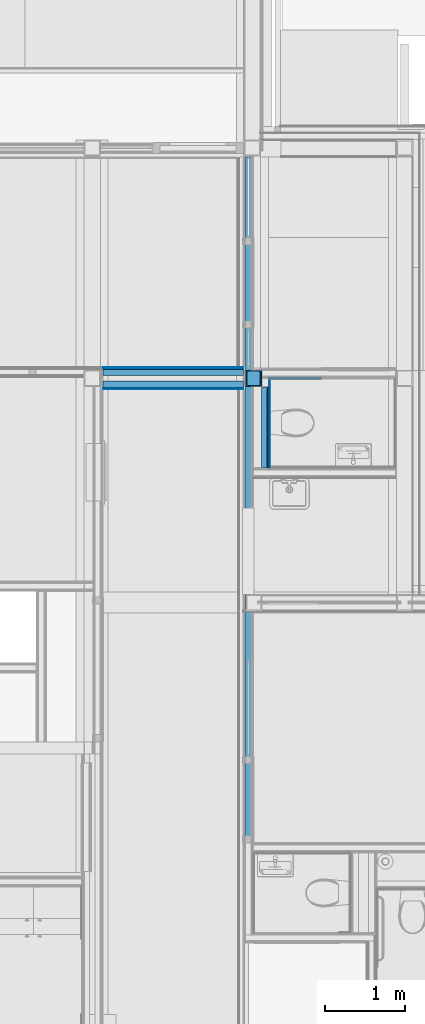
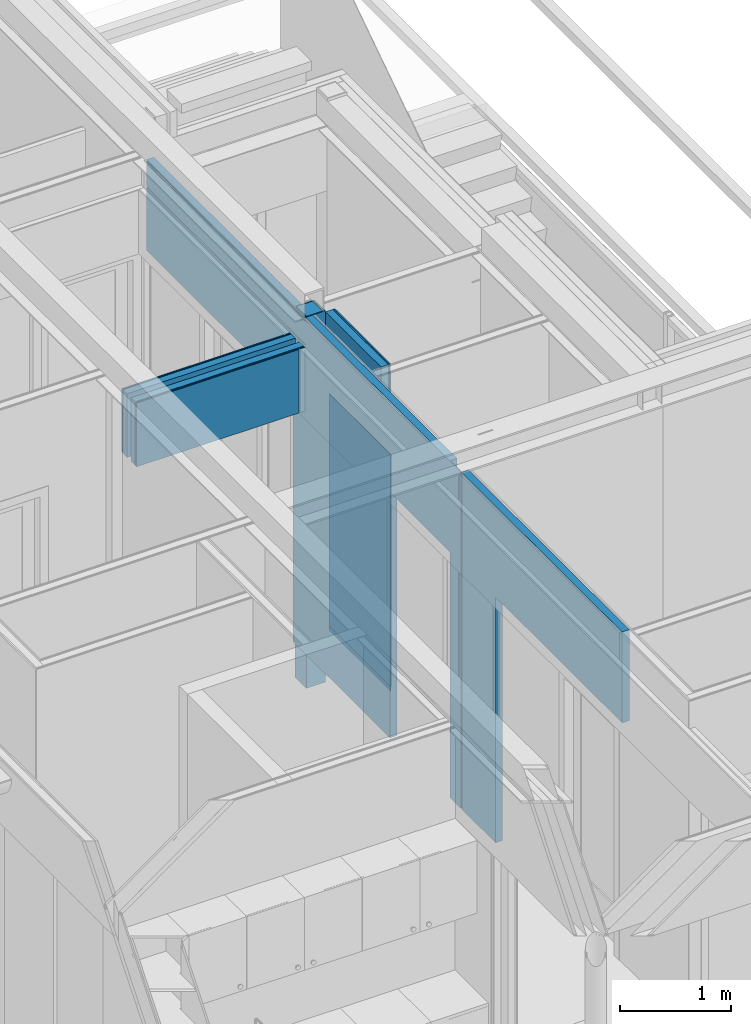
# One storey, part 89 of 165: 15 building element parts, 6 openings, 6 elements without a shape of their own.
"""IFC2X3 building model written with IfcOpenShell, lengths in millimetres."""

from ifc_helpers import new_model, entity, si_unit, converted_unit, derived_unit, money_unit, direction, frame, origin_with_axes, place, context, subcontext, project, spatial, faceted_brep, material, type_object, element, aggregate, save


model = new_model("IFC2X3")

# Units and contexts
model_context = context("Model", 3, precision=0.01, world=origin_with_axes(), true_north=direction((0.0, 1.0)))
body_context = subcontext(model_context, "Body", "Model", "MODEL_VIEW")
ifc_project = project(units=[si_unit("LENGTHUNIT", "METRE", prefix="MILLI"), si_unit("AREAUNIT", "SQUARE_METRE"), si_unit("VOLUMEUNIT", "CUBIC_METRE"), converted_unit("PLANEANGLEUNIT", "DEGREE", entity("IfcPlaneAngleMeasure", 0.0174532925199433), si_unit("PLANEANGLEUNIT", "RADIAN"), dimensions=[0, 0, 0, 0, 0, 0, 0]), money_unit("EUR"), converted_unit("TIMEUNIT", "Year", entity("IfcTimeMeasure", 31556926.0), si_unit("TIMEUNIT", "SECOND"), dimensions=[0, 0, 1, 0, 0, 0, 0]), si_unit("MASSUNIT", "GRAM", prefix="KILO"), si_unit("THERMODYNAMICTEMPERATUREUNIT", "DEGREE_CELSIUS"), si_unit("LUMINOUSINTENSITYUNIT", "LUMEN"), si_unit("ENERGYUNIT", "JOULE", prefix="MEGA"), derived_unit("THERMALCONDUCTANCEUNIT", [(si_unit("POWERUNIT", "WATT"), 1), (si_unit("LENGTHUNIT", "METRE"), -1), (si_unit("THERMODYNAMICTEMPERATUREUNIT", "KELVIN"), -1)]), derived_unit("SPECIFICHEATCAPACITYUNIT", [(si_unit("ENERGYUNIT", "JOULE"), 1), (si_unit("MASSUNIT", "GRAM", prefix="KILO"), -1), (si_unit("THERMODYNAMICTEMPERATUREUNIT", "KELVIN"), -1)]), derived_unit("MASSDENSITYUNIT", [(si_unit("MASSUNIT", "GRAM", prefix="KILO"), 1), (si_unit("VOLUMEUNIT", "CUBIC_METRE"), -1)])], contexts=[model_context])

# Site, building, storey
site_placement = place(None, origin_with_axes())
site = spatial("IfcSite", under=ifc_project, at=site_placement, Name="Site", CompositionType="ELEMENT")
building_placement = place(site_placement, origin_with_axes())
building = spatial("IfcBuilding", under=site, at=building_placement, Name="Naam gebouw", CompositionType="ELEMENT")
storey_placement = place(building_placement, origin_with_axes())
storey = spatial("IfcBuildingStorey", under=building, at=storey_placement, Name="Begane grond", CompositionType="ELEMENT", Elevation=0.0)

# Proxy, openings, building element part
building_element_proxy_type_1 = type_object("IfcBuildingElementProxyType", Name="22 Metal stud 125 oregon pine 125", PredefinedType="NOTDEFINED")
proxy_1_placement = place(storey_placement, frame((26386.00000000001, 22210.97624274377, -100.0), z_axis=(0.0, 0.0, 1.0), x_axis=(0.0, -1.0, 0.0)))
proxy_1 = element("IfcBuildingElementProxy", 1, at=proxy_1_placement, inside=storey, type_object=building_element_proxy_type_1, Name="_Wand-x")
opening_1_placement = place(proxy_1_placement, frame((6880.978461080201, 0.0, 100.0), z_axis=(0.0, 0.0, 1.0), x_axis=(1.0, 0.0, 0.0)))
element("IfcOpeningElement", 2, at=opening_1_placement, cuts=proxy_1, Name="_B.01", context=body_context, shape_type="Brep", body=[
    faceted_brep([(599.9999999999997, 50.00000000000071, 2600.0), (-599.9999999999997, 50.00000000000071, 2600.0), (-599.9999999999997, -1.000000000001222, 2600.0), (599.9999999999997, -1.000000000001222, 2600.0), (599.9999999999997, 126.0000000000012, 2600.0), (-599.9999999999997, 126.0000000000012, 2600.0), (-599.9999999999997, 50.00000000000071, -100.0000000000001), (-599.9999999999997, -1.000000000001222, -100.0000000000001), (599.9999999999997, -1.000000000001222, -100.0000000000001), (599.9999999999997, 50.00000000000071, -100.0000000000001), (599.9999999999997, 126.0000000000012, -100.0000000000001), (-599.9999999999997, 126.0000000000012, -100.0000000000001)], [[[0, 1, 2, 3]], [[1, 0, 4, 5]], [[1, 6, 7, 2]], [[2, 7, 8, 3]], [[9, 0, 3, 8]], [[0, 9, 10, 4]], [[4, 10, 11, 5]], [[6, 1, 5, 11]], [[6, 9, 8, 7]], [[9, 6, 11, 10]]]),
])
opening_2_placement = place(proxy_1_placement, frame((503.0000000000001, 0.0, 100.0), z_axis=(0.0, 0.0, 1.0), x_axis=(1.0, 0.0, 0.0)))
element("IfcOpeningElement", 3, at=opening_2_placement, cuts=proxy_1, Name="_B.17", context=body_context, shape_type="Brep", body=[
    faceted_brep([(-503.0000000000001, 74.99999999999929, -100.0000000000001), (-503.0000000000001, 74.99999999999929, 2600.0), (-503.0000000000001, 126.0000000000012, 2600.0), (-503.0000000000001, 126.0000000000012, -100.0000000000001), (-503.0000000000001, -1.000000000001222, -100.0000000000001), (-503.0000000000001, -1.000000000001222, 2600.0), (503.0000000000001, 74.99999999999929, 2600.0), (503.0000000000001, 126.0000000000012, 2600.0), (503.0000000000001, 126.0000000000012, -100.0000000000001), (503.0000000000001, 74.99999999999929, -100.0000000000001), (503.0000000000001, -1.000000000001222, -100.0000000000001), (503.0000000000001, -1.000000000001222, 2600.0)], [[[0, 1, 2, 3]], [[1, 0, 4, 5]], [[1, 6, 7, 2]], [[7, 8, 3, 2]], [[9, 0, 3, 8]], [[0, 9, 10, 4]], [[5, 4, 10, 11]], [[6, 1, 5, 11]], [[6, 9, 8, 7]], [[9, 6, 11, 10]]]),
])
opening_3_placement = place(proxy_1_placement, frame((2385.98792491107, 0.0, 100.0), z_axis=(0.0, 0.0, 1.0), x_axis=(1.0, 0.0, 0.0)))
element("IfcOpeningElement", 4, at=opening_3_placement, cuts=proxy_1, Name="_B.13", context=body_context, shape_type="Brep", body=[
    faceted_brep([(249.9879249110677, 50.00000000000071, 2600.0), (-249.9879249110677, 50.00000000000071, 2600.0), (-249.9879249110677, -1.000000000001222, 2600.0), (249.9879249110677, -1.000000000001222, 2600.0), (249.9879249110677, 126.0000000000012, 2600.0), (-249.9879249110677, 126.0000000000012, 2600.0), (-249.9879249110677, 50.00000000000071, -100.0000000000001), (-249.9879249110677, -1.000000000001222, -100.0000000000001), (249.9879249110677, -1.000000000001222, -100.0000000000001), (249.9879249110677, 50.00000000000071, -100.0000000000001), (249.9879249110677, 126.0000000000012, -100.0000000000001), (-249.9879249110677, 126.0000000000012, -100.0000000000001)], [[[0, 1, 2, 3]], [[1, 0, 4, 5]], [[1, 6, 7, 2]], [[2, 7, 8, 3]], [[9, 0, 3, 8]], [[0, 9, 10, 4]], [[4, 10, 11, 5]], [[6, 1, 5, 11]], [[6, 9, 8, 7]], [[9, 6, 11, 10]]]),
])
opening_4_placement = place(proxy_1_placement, frame((4920.978461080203, 0.0, 100.0), z_axis=(0.0, 0.0, 1.0), x_axis=(1.0, 0.0, 0.0)))
element("IfcOpeningElement", 5, at=opening_4_placement, cuts=proxy_1, Name="_02.04", context=body_context, shape_type="Brep", body=[
    faceted_brep([(539.9999999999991, 126.0000000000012, 2600.0), (539.9999999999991, 126.0000000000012, -100.0000000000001), (-539.9999999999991, 126.0000000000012, -100.0000000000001), (-539.9999999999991, 126.0000000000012, 2600.0), (539.9999999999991, -1.000000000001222, 2600.0), (539.9999999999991, -1.000000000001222, -100.0000000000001), (-539.9999999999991, -1.000000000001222, -100.0000000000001), (-539.9999999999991, -1.000000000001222, 2600.0)], [[[0, 1, 2, 3]], [[4, 5, 1, 0]], [[5, 6, 2, 1]], [[6, 7, 3, 2]], [[7, 4, 0, 3]], [[6, 5, 4, 7]]]),
])
opening_5_placement = place(proxy_1_placement, frame((8020.978461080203, 0.0, 100.0), z_axis=(0.0, 0.0, 1.0), x_axis=(1.0, 0.0, 0.0)))
element("IfcOpeningElement", 6, at=opening_5_placement, cuts=proxy_1, Name="_01.02", context=body_context, shape_type="Brep", body=[
    faceted_brep([(-540.0000000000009, -1.000000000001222, 2600.0), (-540.0000000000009, -1.000000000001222, -100.0000000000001), (540.0000000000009, -1.000000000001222, -100.0000000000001), (540.0000000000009, -1.000000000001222, 2600.0), (-540.0000000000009, 126.0000000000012, 2600.0), (-540.0000000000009, 126.0000000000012, -100.0000000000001), (540.0000000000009, 126.0000000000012, -100.0000000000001), (540.0000000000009, 126.0000000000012, 2600.0)], [[[0, 1, 2, 3]], [[4, 5, 1, 0]], [[5, 6, 2, 1]], [[6, 7, 3, 2]], [[7, 4, 0, 3]], [[6, 5, 4, 7]]]),
])
opening_6_placement = place(proxy_1_placement, frame((1571.000000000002, 0.0, 100.0), z_axis=(0.0, 0.0, 1.0), x_axis=(1.0, 0.0, 0.0)))
element("IfcOpeningElement", 7, at=opening_6_placement, cuts=proxy_1, Name="_01.01", context=body_context, shape_type="Brep", body=[
    faceted_brep([(-565.0000000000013, -1.000000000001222, 2600.0), (-565.0000000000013, -1.000000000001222, -100.0000000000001), (565.0000000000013, -1.000000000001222, -100.0000000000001), (565.0000000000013, -1.000000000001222, 2600.0), (-565.0000000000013, 126.0000000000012, 2600.0), (-565.0000000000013, 126.0000000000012, -100.0000000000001), (565.0000000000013, 126.0000000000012, -100.0000000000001), (565.0000000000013, 126.0000000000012, 2600.0)], [[[0, 1, 2, 3]], [[4, 5, 1, 0]], [[5, 6, 2, 1]], [[6, 7, 3, 2]], [[7, 4, 0, 3]], [[6, 5, 4, 7]]]),
])
ifc_material_1 = material(Name="ALG - LICHTE SCHEIDINGSWAND")
building_element_part_1_placement = place(proxy_1_placement, origin_with_axes())
building_element_part_1 = element("IfcBuildingElementPart", 8, at=building_element_part_1_placement, material=ifc_material_1, Name="ALG - LICHTE SCHEIDINGSWAND", context=body_context, shape_type="Brep", body=[
    faceted_brep([(2136.000000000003, 100.0000000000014, 2700.0), (1006.0, 99.99999999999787, 2700.0), (0.0, 100.0000000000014, 2700.0), (0.0, 100.0000000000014, 3393.0), (2660.975849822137, 99.99999999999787, 3393.0), (2660.975849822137, 100.0000000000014, 0.0), (2635.975849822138, 100.0000000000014, 0.0), (2635.975849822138, 100.0000000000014, 2700.0), (2136.000000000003, 24.99999999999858, 2700.0), (1006.0, 24.99999999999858, 2700.0), (0.0, 24.99999999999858, 2700.0), (0.0, 74.99999999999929, 2700.0), (1006.0, 74.99999999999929, 2700.0), (2136.000000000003, 50.00000000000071, 2700.0), (2635.975849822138, 50.00000000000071, 2700.0), (2635.975849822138, 24.99999999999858, 2700.0), (0.0, 24.99999999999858, 3393.0), (2860.975849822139, 33.99999999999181, 3393.0), (2660.975849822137, 33.99999999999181, 3393.0), (2860.975849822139, 24.99999999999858, 3393.0), (2660.975849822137, 33.99999999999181, 0.0), (2860.975849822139, 33.99999999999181, 0.0), (2860.975849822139, 99.99999999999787, 0.0), (4380.978461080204, 99.99999999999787, 0.0), (4380.978461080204, 24.99999999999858, 0.0), (2635.975849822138, 24.99999999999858, 0.0), (2635.975849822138, 50.00000000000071, 0.0), (4380.978461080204, 24.99999999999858, 2700.0), (5460.978461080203, 24.99999999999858, 2700.0), (5460.978461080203, 24.99999999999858, 0.0), (5662.978461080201, 24.99999999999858, 0.0), (5662.978461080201, 24.99999999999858, 3700.0), (0.0, 24.99999999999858, 3700.0), (0.0, 24.99999999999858, 3695.0), (2860.976431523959, 24.99999999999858, 3695.0), (2860.976431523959, 24.99999999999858, 3683.0), (0.0, 24.99999999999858, 3683.0), (0.0, 24.99999999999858, 3670.0), (2860.975849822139, 24.99999999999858, 3670.0), (2860.975849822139, 24.99999999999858, 3650.0), (0.0, 24.99999999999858, 3650.0), (0.0, 24.99999999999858, 3405.0), (2860.975849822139, 24.99999999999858, 3405.0), (2860.975849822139, 33.99999999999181, 3695.0), (2860.975849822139, 33.99999999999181, 3699.999999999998), (2860.975849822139, 99.99999999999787, 3699.999999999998), (2860.975849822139, 33.99999999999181, 3405.0), (2860.975849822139, 33.99999999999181, 3650.0), (2860.975849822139, 33.99999999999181, 3670.0), (2860.975849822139, 33.99999999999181, 3683.0), (5460.978461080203, 99.99999999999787, 3699.999999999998), (5460.978461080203, 99.99999999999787, 2700.0), (4380.978461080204, 99.99999999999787, 2700.0), (5460.978461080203, 33.99999999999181, 2700.0), (5460.978461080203, 33.99999999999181, 0.0), (5660.978461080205, 99.99999999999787, 0.0), (5662.978461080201, 99.99999999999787, 0.0), (5660.978461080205, 33.99999999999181, 0.0), (5662.978461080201, 99.99999999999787, 3700.0), (5660.978461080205, 99.99999999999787, 3699.999999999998), (5660.978461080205, 33.99999999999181, 3699.999999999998), (5460.978461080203, 33.99999999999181, 3699.999999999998), (2660.975849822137, 33.99999999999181, 3699.999999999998), (2660.975849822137, 100.0000000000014, 3699.999999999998), (0.0, 100.0000000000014, 3700.0), (0.0, 100.0000000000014, 3695.0), (2660.975849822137, 33.99999999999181, 3695.0), (2660.975849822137, 99.99999999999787, 3695.0), (2660.975849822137, 33.99999999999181, 3683.0), (2660.975849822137, 99.99999999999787, 3683.0), (0.0, 100.0000000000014, 3683.0), (0.0, 100.0000000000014, 3670.0), (2660.975849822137, 33.99999999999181, 3670.000000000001), (2660.975849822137, 99.99999999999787, 3670.0), (2660.975849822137, 33.99999999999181, 3650.0), (2660.975849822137, 99.99999999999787, 3650.0), (0.0, 100.0000000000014, 3650.0), (0.0, 100.0000000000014, 3405.0), (2660.975849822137, 33.99999999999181, 3405.0), (2660.975849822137, 99.99999999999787, 3405.0)], [[[0, 1, 2, 3, 4, 5, 6, 7]], [[8, 9, 10, 11, 12, 1, 0, 13, 14, 15]], [[1, 12, 11, 2]], [[3, 2, 11, 10, 16]], [[17, 18, 4, 3, 16, 19]], [[18, 20, 5, 4]], [[20, 21, 22, 23, 24, 25, 26, 6, 5]], [[26, 14, 7, 6]], [[13, 0, 7, 14]], [[9, 8, 15, 25, 24, 27, 28, 29, 30, 31, 32, 33, 34, 35, 36, 37, 38, 39, 40, 41, 42, 19, 16, 10]], [[25, 15, 14, 26]], [[21, 20, 18, 17]], [[34, 43, 44, 45, 22, 21, 17, 19, 42, 46, 47, 39, 38, 48, 49, 35]], [[45, 50, 51, 52, 23, 22]], [[52, 27, 24, 23]], [[53, 28, 27, 52, 51]], [[54, 29, 28, 53]], [[55, 56, 30, 29, 54, 57]], [[56, 58, 31, 30]], [[58, 59, 60, 61, 50, 45, 44, 62, 63, 64, 32, 31]], [[33, 32, 64, 65]], [[66, 43, 34, 33, 65, 67]], [[49, 68, 69, 70, 36, 35]], [[70, 71, 37, 36]], [[72, 48, 38, 37, 71, 73]], [[47, 74, 75, 76, 40, 39]], [[76, 77, 41, 40]], [[78, 46, 42, 41, 77, 79]], [[43, 66, 62, 44]], [[46, 78, 74, 47]], [[48, 72, 68, 49]], [[51, 50, 61, 53]], [[61, 60, 57, 54, 53]], [[58, 56, 55, 59]], [[55, 57, 60, 59]], [[62, 66, 67, 63]], [[65, 64, 63, 67]], [[68, 72, 73, 69]], [[71, 70, 69, 73]], [[74, 78, 79, 75]], [[77, 76, 75, 79]]]),
    faceted_brep([(8560.978461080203, 99.99999999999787, 2700.0), (7480.978461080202, 99.99999999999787, 2700.0), (6280.978461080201, 99.99999999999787, 2700.0), (6280.978461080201, 99.99999999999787, 0.0), (5674.978461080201, 99.99999999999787, 0.0), (5674.978461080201, 99.99999999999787, 3700.0), (8560.978461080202, 99.99999999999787, 3700.0), (7480.978461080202, 50.00000000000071, 2700.0), (8560.978461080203, 24.99999999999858, 2700.0), (7480.978461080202, 24.99999999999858, 2700.0), (6280.978461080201, 24.99999999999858, 2700.0), (6280.978461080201, 50.00000000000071, 2700.0), (6280.978461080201, 50.00000000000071, 0.0), (6280.978461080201, 24.99999999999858, 0.0), (5674.978461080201, 24.99999999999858, 0.0), (5674.978461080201, 24.99999999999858, 3700.0), (8560.978461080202, 24.99999999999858, 3700.0)], [[[0, 1, 2, 3, 4, 5, 6]], [[7, 1, 0, 8, 9, 10, 11]], [[1, 7, 11, 2]], [[2, 11, 12, 3]], [[13, 14, 4, 3, 12]], [[5, 4, 14, 15]], [[15, 16, 6, 5]], [[8, 0, 6, 16]], [[9, 8, 16, 15, 14, 13, 10]], [[11, 10, 13, 12]]]),
])
aggregate(proxy_1, [building_element_part_1])

# Proxy, building element parts
building_element_proxy_type_2 = type_object("IfcBuildingElementProxyType", Name="22 Metal stud 100 voorzetwand 100", PredefinedType="NOTDEFINED")
proxy_2_placement = place(storey_placement, frame((26711.00000000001, 19336.00039917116, -100.0), z_axis=(0.0, 0.0, 1.0), x_axis=(4.692530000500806e-08, -0.9999999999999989, 0.0)))
proxy_2 = element("IfcBuildingElementProxy", 9, at=proxy_2_placement, inside=storey, type_object=building_element_proxy_type_2, Name="_Wand-x")
ifc_material_2 = material(Name="Gipsplaat")
building_element_part_2_placement = place(proxy_2_placement, origin_with_axes())
building_element_part_2 = element("IfcBuildingElementPart", 10, at=building_element_part_2_placement, material=ifc_material_2, Name="Gipsplaat", context=body_context, shape_type="Brep", body=[
    faceted_brep([(999.9999909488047, -4.69253009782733e-05, 3700.0), (0.0, 0.0, 3700.0), (-5.865672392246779e-07, -12.49999999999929, 3700.0), (999.99999017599, -12.50004692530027, 3700.0), (999.9999909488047, -4.69253009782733e-05, 0.0), (0.0, 0.0, 0.0), (-5.865672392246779e-07, -12.49999999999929, 0.0), (999.99999017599, -12.50004692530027, 0.0)], [[[0, 1, 2, 3]], [[4, 5, 1, 0]], [[2, 1, 5, 6]], [[3, 2, 6, 7]], [[3, 7, 4, 0]], [[7, 6, 5, 4]]]),
])
building_element_part_3_placement = place(proxy_2_placement, origin_with_axes())
building_element_part_3 = element("IfcBuildingElementPart", 11, at=building_element_part_3_placement, material=ifc_material_2, Name="Gipsplaat", context=body_context, shape_type="Brep", body=[
    faceted_brep([(999.99999017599, -12.50004692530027, 3700.0), (-5.865672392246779e-07, -12.49999999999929, 3700.0), (-1.173134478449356e-06, -24.99999999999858, 3700.0), (999.9999894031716, -25.000046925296, 3700.0), (999.99999017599, -12.50004692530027, 0.0), (-5.865672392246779e-07, -12.49999999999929, 0.0), (-1.173134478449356e-06, -24.99999999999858, 0.0), (999.9999894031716, -25.000046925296, 0.0)], [[[0, 1, 2, 3]], [[4, 5, 1, 0]], [[2, 1, 5, 6]], [[3, 2, 6, 7]], [[3, 7, 4, 0]], [[7, 6, 5, 4]]]),
])
building_element_part_4_placement = place(proxy_2_placement, origin_with_axes())
building_element_part_4 = element("IfcBuildingElementPart", 12, at=building_element_part_4_placement, material=ifc_material_1, Name="ALG - LICHTE SCHEIDINGSWAND", context=body_context, shape_type="Brep", body=[
    faceted_brep([(999.9999894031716, -25.000046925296, 3700.0), (-1.173134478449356e-06, -24.99999999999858, 3700.0), (-4.692530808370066e-06, -100.0000000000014, 3700.0), (999.9999847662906, -100.0000469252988, 3700.0), (999.9999894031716, -25.000046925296, 0.0), (-1.173134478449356e-06, -24.99999999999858, 0.0), (-4.692530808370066e-06, -100.0000000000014, 0.0), (999.9999847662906, -100.0000469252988, 0.0)], [[[0, 1, 2, 3]], [[4, 5, 1, 0]], [[2, 1, 5, 6]], [[3, 2, 6, 7]], [[3, 7, 4, 0]], [[7, 6, 5, 4]]]),
])
aggregate(proxy_2, [building_element_part_2, building_element_part_3, building_element_part_4])

# Column, building element parts
column_type = type_object("IfcColumnType", Name="200X200X10 200 x 200", PredefinedType="COLUMN")
column_placement = place(storey_placement, frame((26520.0, 19450.00039292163, -480.0), z_axis=(0.0, 0.0, 1.0), x_axis=(1.0, 0.0, 0.0)))
column = element("IfcColumn", 13, at=column_placement, inside=storey, type_object=column_type, Name="28_Kolom-x", ObjectType="COLUMN")
ifc_material_3 = material(Name="Metaal - Staal C")
building_element_part_5_placement = place(column_placement, origin_with_axes())
building_element_part_5 = element("IfcBuildingElementPart", 14, at=building_element_part_5_placement, material=ifc_material_3, Name="Metaal - Staal C", context=body_context, shape_type="Brep", body=[
    faceted_brep([(-100.0000000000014, -100.0000000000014, 0.0), (100.0000000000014, -100.0000000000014, 0.0), (100.0000000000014, -100.0000000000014, 4079.999999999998), (-100.0000000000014, -100.0000000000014, 4079.999999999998), (-100.0000000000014, 100.0000000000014, 0.0), (100.0000000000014, 100.0000000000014, 0.0), (-89.99999999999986, -89.99999999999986, 0.0), (89.99999999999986, -89.99999999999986, 0.0), (89.99999999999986, 89.99999999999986, 0.0), (-89.99999999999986, 89.99999999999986, 0.0), (100.0000000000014, 100.0000000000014, 4079.999999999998), (-100.0000000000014, 100.0000000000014, 4079.999999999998), (-89.99999999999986, -89.99999999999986, 4079.999999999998), (-89.99999999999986, 89.99999999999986, 4079.999999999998), (89.99999999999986, 89.99999999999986, 4079.999999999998), (89.99999999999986, -89.99999999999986, 4079.999999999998)], [[[0, 1, 2, 3]], [[0, 4, 5, 1], [6, 7, 8, 9]], [[1, 5, 10, 2]], [[3, 2, 10, 11], [12, 13, 14, 15]], [[4, 0, 3, 11]], [[5, 4, 11, 10]], [[7, 6, 12, 15]], [[8, 7, 15, 14]], [[9, 8, 14, 13]], [[6, 9, 13, 12]]]),
])
ifc_material_4 = material(Name="Beton gewapend C")
building_element_part_6_placement = place(column_placement, origin_with_axes())
building_element_part_6 = element("IfcBuildingElementPart", 15, at=building_element_part_6_placement, material=ifc_material_4, Name="Beton gewapend C", context=body_context, shape_type="Brep", body=[
    faceted_brep([(74.99999999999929, 89.99999999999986, 3785.0), (-89.99999999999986, 89.99999999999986, 3785.0), (-89.99999999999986, 89.99999999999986, 4030.0), (74.99999999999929, 89.99999999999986, 4030.0), (74.99999999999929, -89.99999999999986, 3785.0), (-89.99999999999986, -89.99999999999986, 3785.0), (-89.99999999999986, -89.99999999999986, 4030.0), (74.99999999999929, -89.99999999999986, 4030.0)], [[[0, 1, 2, 3]], [[1, 0, 4, 5]], [[6, 2, 1, 5]], [[3, 2, 6, 7]], [[0, 3, 7, 4]], [[7, 6, 5, 4]]]),
    faceted_brep([(-89.99999999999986, 89.99999999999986, 3773.0), (89.99999999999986, 89.99999999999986, 3773.0), (89.99999999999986, 89.99999999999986, 0.0), (-89.99999999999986, 89.99999999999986, 0.0), (89.99999999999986, -89.99999999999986, 3773.0), (-89.99999999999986, -89.99999999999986, 3773.0), (89.99999999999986, -89.99999999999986, 0.0), (-89.99999999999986, -89.99999999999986, 0.0)], [[[0, 1, 2, 3]], [[4, 1, 0, 5]], [[1, 4, 6, 2]], [[2, 6, 7, 3]], [[5, 0, 3, 7]], [[4, 5, 7, 6]]]),
    faceted_brep([(75.00000000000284, -89.99999999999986, 4079.999999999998), (75.00000000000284, 89.99999999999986, 4079.999999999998), (-89.99999999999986, 89.99999999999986, 4079.999999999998), (-89.99999999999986, -89.99999999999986, 4079.999999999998), (75.0000000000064, 89.99999999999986, 4074.999999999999), (75.0000000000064, -89.99999999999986, 4074.999999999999), (-89.99999999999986, 89.99999999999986, 4074.999999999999), (-89.99999999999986, -89.99999999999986, 4074.999999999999)], [[[0, 1, 2, 3]], [[4, 1, 0, 5]], [[4, 6, 2, 1]], [[6, 7, 3, 2]], [[5, 0, 3, 7]], [[6, 4, 5, 7]]]),
    faceted_brep([(-89.99999999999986, 89.99999999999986, 4063.0), (89.99999999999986, 89.99999999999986, 4063.0), (89.99999999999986, 89.99999999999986, 3785.0), (80.99999999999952, 89.99999999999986, 3785.0), (80.99999999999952, 89.99999999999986, 4050.000000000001), (-89.99999999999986, 89.99999999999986, 4050.000000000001), (89.99999999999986, -89.99999999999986, 4063.0), (-89.99999999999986, -89.99999999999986, 4063.0), (89.99999999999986, -89.99999999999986, 3785.0), (80.99999999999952, -89.99999999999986, 3785.0), (80.99999999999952, -89.99999999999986, 4050.000000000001), (-89.99999999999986, -89.99999999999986, 4050.000000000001)], [[[0, 1, 2, 3, 4, 5]], [[6, 1, 0, 7]], [[1, 6, 8, 2]], [[3, 2, 8, 9]], [[4, 3, 9, 10]], [[5, 4, 10, 11]], [[7, 0, 5, 11]], [[6, 7, 11, 10, 9, 8]]]),
    faceted_brep([(89.99999999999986, -89.99999999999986, 4074.999999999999), (89.99999999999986, 89.99999999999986, 4074.999999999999), (89.99999999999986, 89.99999999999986, 4079.999999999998), (89.99999999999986, -89.99999999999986, 4079.999999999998), (81.00000000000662, 89.99999999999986, 4074.999999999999), (81.00000000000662, -89.99999999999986, 4074.999999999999), (81.00000000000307, 89.99999999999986, 4079.999999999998), (81.00000000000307, -89.99999999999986, 4079.999999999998)], [[[0, 1, 2, 3]], [[4, 1, 0, 5]], [[4, 6, 2, 1]], [[6, 7, 3, 2]], [[5, 0, 3, 7]], [[7, 6, 4, 5]]]),
])
aggregate(column, [building_element_part_5, building_element_part_6])

# Proxy, building element parts
building_element_proxy_type_3 = type_object("IfcBuildingElementProxyType", Name="22 Metal stud 270 270", PredefinedType="NOTDEFINED")
proxy_3_placement = place(storey_placement, frame((24634.99903999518, 19449.9998112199, 2600.0), z_axis=(0.0, 0.0, 1.0), x_axis=(1.0, 0.0, 0.0)))
proxy_3 = element("IfcBuildingElementProxy", 16, at=proxy_3_placement, inside=storey, type_object=building_element_proxy_type_3, Name="_Wand-x")
building_element_part_7_placement = place(proxy_3_placement, origin_with_axes())
building_element_part_7 = element("IfcBuildingElementPart", 17, at=building_element_part_7_placement, material=ifc_material_2, Name="Gipsplaat", context=body_context, shape_type="Brep", body=[
    faceted_brep([(1751.000960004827, 122.4999999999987, 0.0), (1751.000960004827, 109.9999999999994, 0.0), (0.0, 109.9999999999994, 0.0), (0.0, 122.4999999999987, 0.0), (1751.000960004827, 122.4999999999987, 699.9999999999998), (1751.000960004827, 109.9999999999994, 699.9999999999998), (0.0, 109.9999999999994, 699.9999999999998), (0.0, 122.4999999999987, 699.9999999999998)], [[[0, 1, 2, 3]], [[0, 4, 5, 1]], [[1, 5, 6, 2]], [[3, 2, 6, 7]], [[4, 0, 3, 7]], [[5, 4, 7, 6]]]),
])
building_element_part_8_placement = place(proxy_3_placement, origin_with_axes())
building_element_part_8 = element("IfcBuildingElementPart", 18, at=building_element_part_8_placement, material=ifc_material_1, Name="ALG - LICHTE SCHEIDINGSWAND", context=body_context, shape_type="Brep", body=[
    faceted_brep([(1751.000960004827, 109.9999999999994, 0.0), (1751.000960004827, 35.00000000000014, 0.0), (0.0, 35.00000000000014, 0.0), (0.0, 109.9999999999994, 0.0), (1751.000960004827, 109.9999999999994, 699.9999999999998), (1751.000960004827, 35.00000000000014, 699.9999999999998), (0.0, 35.00000000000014, 699.9999999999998), (0.0, 109.9999999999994, 699.9999999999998)], [[[0, 1, 2, 3]], [[0, 4, 5, 1]], [[1, 5, 6, 2]], [[3, 2, 6, 7]], [[4, 0, 3, 7]], [[5, 4, 7, 6]]]),
])
building_element_part_9_placement = place(proxy_3_placement, origin_with_axes())
building_element_part_9 = element("IfcBuildingElementPart", 19, at=building_element_part_9_placement, material=ifc_material_1, Name="ALG - LICHTE SCHEIDINGSWAND", context=body_context, shape_type="Brep", body=[
    faceted_brep([(1751.000960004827, -35.00000000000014, 0.0), (1751.000960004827, -109.9999999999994, 0.0), (0.0, -109.9999999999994, 0.0), (0.0, -35.00000000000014, 0.0), (1751.000960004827, -35.00000000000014, 699.9999999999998), (1751.000960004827, -109.9999999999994, 699.9999999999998), (0.0, -109.9999999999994, 699.9999999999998), (0.0, -35.00000000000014, 699.9999999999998)], [[[0, 1, 2, 3]], [[0, 4, 5, 1]], [[1, 5, 6, 2]], [[3, 2, 6, 7]], [[4, 0, 3, 7]], [[5, 4, 7, 6]]]),
])
building_element_part_10_placement = place(proxy_3_placement, origin_with_axes())
building_element_part_10 = element("IfcBuildingElementPart", 20, at=building_element_part_10_placement, material=ifc_material_2, Name="Gipsplaat", context=body_context, shape_type="Brep", body=[
    faceted_brep([(1751.000960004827, -109.9999999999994, 0.0), (1751.000960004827, -122.4999999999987, 0.0), (0.0, -122.4999999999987, 0.0), (0.0, -109.9999999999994, 0.0), (1751.000960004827, -109.9999999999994, 699.9999999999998), (1751.000960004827, -122.4999999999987, 699.9999999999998), (0.0, -122.4999999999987, 699.9999999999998), (0.0, -109.9999999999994, 699.9999999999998)], [[[0, 1, 2, 3]], [[0, 4, 5, 1]], [[1, 5, 6, 2]], [[3, 2, 6, 7]], [[4, 0, 3, 7]], [[5, 4, 7, 6]]]),
])
building_element_part_11_placement = place(proxy_3_placement, origin_with_axes())
building_element_part_11 = element("IfcBuildingElementPart", 21, at=building_element_part_11_placement, material=ifc_material_2, Name="Gipsplaat", context=body_context, shape_type="Brep", body=[
    faceted_brep([(1751.000960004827, -122.4999999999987, 0.0), (1751.000960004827, -135.0000000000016, 0.0), (1701.000960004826, -135.0000000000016, 0.0), (1701.000960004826, -122.4999999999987, 0.0), (1751.000960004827, -122.4999999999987, 699.9999999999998), (1751.000960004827, -135.0000000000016, 699.9999999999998), (1701.000960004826, -135.0000000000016, 699.9999999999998), (1701.000960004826, -122.4999999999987, 699.9999999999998)], [[[0, 1, 2, 3]], [[0, 4, 5, 1]], [[1, 5, 6, 2]], [[3, 2, 6, 7]], [[4, 0, 3, 7]], [[5, 4, 7, 6]]]),
    faceted_brep([(1688.500960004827, -135.0000000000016, 0.0), (0.0, -135.0000000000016, 0.0), (0.0, -122.4999999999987, 0.0), (1688.500960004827, -122.4999999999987, 0.0), (1688.500960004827, -135.0000000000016, 699.9999999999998), (0.0, -135.0000000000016, 699.9999999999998), (0.0, -122.4999999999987, 699.9999999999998), (1688.500960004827, -122.4999999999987, 699.9999999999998)], [[[0, 1, 2, 3]], [[4, 5, 1, 0]], [[2, 1, 5, 6]], [[3, 2, 6, 7]], [[3, 7, 4, 0]], [[7, 6, 5, 4]]]),
])
building_element_part_12_placement = place(proxy_3_placement, origin_with_axes())
building_element_part_12 = element("IfcBuildingElementPart", 22, at=building_element_part_12_placement, material=ifc_material_2, Name="Gipsplaat", context=body_context, shape_type="Brep", body=[
    faceted_brep([(1751.000960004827, 135.0000000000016, 0.0), (1751.000960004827, 122.4999999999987, 0.0), (1701.000960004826, 122.4999999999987, 0.0), (1701.000960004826, 135.0000000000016, 0.0), (1751.000960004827, 135.0000000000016, 699.9999999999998), (1751.000960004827, 122.4999999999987, 699.9999999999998), (1701.000960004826, 122.4999999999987, 699.9999999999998), (1701.000960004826, 135.0000000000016, 699.9999999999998)], [[[0, 1, 2, 3]], [[0, 4, 5, 1]], [[1, 5, 6, 2]], [[3, 2, 6, 7]], [[4, 0, 3, 7]], [[5, 4, 7, 6]]]),
    faceted_brep([(1688.500960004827, 122.4999999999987, 0.0), (0.0, 122.4999999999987, 0.0), (0.0, 135.0000000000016, 0.0), (1688.500960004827, 135.0000000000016, 0.0), (1688.500960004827, 122.4999999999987, 699.9999999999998), (0.0, 122.4999999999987, 699.9999999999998), (0.0, 135.0000000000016, 699.9999999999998), (1688.500960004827, 135.0000000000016, 699.9999999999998)], [[[0, 1, 2, 3]], [[4, 5, 1, 0]], [[2, 1, 5, 6]], [[3, 2, 6, 7]], [[3, 7, 4, 0]], [[7, 6, 5, 4]]]),
])
aggregate(proxy_3, [building_element_part_7, building_element_part_8, building_element_part_9, building_element_part_10, building_element_part_11, building_element_part_12])

# Proxy, building element part
building_element_proxy_type_4 = type_object("IfcBuildingElementProxyType", Name="42 Tegelwerk 2600+ 12 x 2600", PredefinedType="NOTDEFINED")
proxy_4_placement = place(storey_placement, frame((27355.99997968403, 19430.0003938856, 0.0), z_axis=(0.0, 0.0, 1.0), x_axis=(-1.0, 0.0, 0.0)))
proxy_4 = element("IfcBuildingElementProxy", 23, at=proxy_4_placement, inside=storey, type_object=building_element_proxy_type_4, Name="_Wand-x")
ifc_material_5 = material(Name="21 STO lijmlaag")
building_element_part_13_placement = place(proxy_4_placement, origin_with_axes())
building_element_part_13 = element("IfcBuildingElementPart", 24, at=building_element_part_13_placement, material=ifc_material_5, Name="21 STO lijmlaag", context=body_context, shape_type="Brep", body=[
    faceted_brep([(644.9999915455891, -19.99999552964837, 50.00000596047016), (644.9999915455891, -19.99999552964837, 2600.0), (0.0, -19.99999552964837, 2600.0), (0.0, -19.99999552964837, 50.00000000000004), (644.9999915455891, -13.00000447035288, 2600.0), (644.9999915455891, -14.99999850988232, 50.00000596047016), (644.9999915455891, -13.00000447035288, 50.00000596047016), (0.0, -13.00000447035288, 2600.0), (0.0, -13.00000447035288, 50.00000000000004), (0.0, -14.99999850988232, 50.00000596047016)], [[[0, 1, 2, 3]], [[4, 1, 0, 5, 6]], [[1, 4, 7, 2]], [[7, 8, 9, 3, 2]], [[5, 0, 3, 9]], [[6, 5, 9, 8]], [[4, 6, 8, 7]]]),
])
aggregate(proxy_4, [building_element_part_13])

# Proxy, building element parts
proxy_5_placement = place(storey_placement, frame((26730.99999558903, 19430.0003938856, 0.0), z_axis=(0.0, 0.0, 1.0), x_axis=(4.692530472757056e-08, -0.999999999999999, 0.0)))
proxy_5 = element("IfcBuildingElementProxy", 25, at=proxy_5_placement, inside=storey, type_object=building_element_proxy_type_4, Name="_Wand-x")
building_element_part_14_placement = place(proxy_5_placement, origin_with_axes())
building_element_part_14 = element("IfcBuildingElementPart", 26, at=building_element_part_14_placement, material=ifc_material_5, Name="21 STO lijmlaag", context=body_context, shape_type="Brep", body=[
    faceted_brep([(-13.00000508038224, -13.00000386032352, 50.00000000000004), (-13.00000508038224, -13.00000386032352, 2600.0), (1093.999992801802, -13.00005580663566, 2600.0), (1093.999992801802, -13.00005580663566, 50.00000596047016), (-13.00000540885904, -19.99999491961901, 2600.0), (-13.00000517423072, -14.99999789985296, 50.00000000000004), (-13.00000540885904, -19.99999491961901, 50.00000000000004), (1093.999992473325, -20.00004686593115, 2600.0), (1093.999992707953, -15.0000498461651, 50.00000596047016), (1093.999992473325, -20.00004686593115, 50.00000596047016)], [[[0, 1, 2, 3]], [[4, 1, 0, 5, 6]], [[1, 4, 7, 2]], [[8, 3, 2, 7, 9]], [[5, 0, 3, 8]], [[6, 5, 8, 9]], [[4, 6, 9, 7]]]),
])
ifc_material_6 = material(Name="48 vloeivloer Bolidt")
building_element_part_15_placement = place(proxy_5_placement, origin_with_axes())
building_element_part_15 = element("IfcBuildingElementPart", 27, at=building_element_part_15_placement, material=ifc_material_6, Name="48 vloeivloer Bolidt", context=body_context, shape_type="Brep", body=[
    faceted_brep([(-14.99999921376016, -14.99999780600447, 0.0), (-14.99999921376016, -14.99999780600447, 50.00000596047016), (1093.999992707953, -15.0000498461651, 50.00000596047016), (1093.999992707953, -15.0000498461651, 0.0), (-14.99999944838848, -19.99998290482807, 50.00000596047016), (-14.99999944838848, -19.99998290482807, 0.0), (1093.999992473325, -20.0000349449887, 50.00000596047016), (1093.999992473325, -20.0000349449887, 0.0)], [[[0, 1, 2, 3]], [[4, 1, 0, 5]], [[1, 4, 6, 2]], [[7, 3, 2, 6]], [[5, 0, 3, 7]], [[4, 5, 7, 6]]]),
])
aggregate(proxy_5, [building_element_part_14, building_element_part_15])

save(model, "model.ifc")
